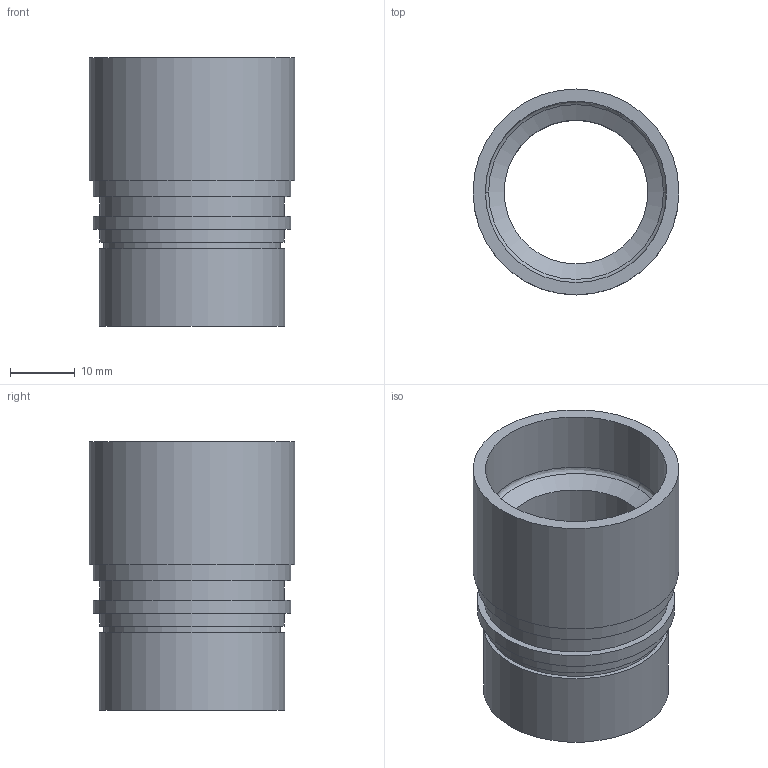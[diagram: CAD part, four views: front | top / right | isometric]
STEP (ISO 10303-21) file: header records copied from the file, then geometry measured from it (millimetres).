
FILE_DESCRIPTION (( 'STEP AP203' ), '1' );
FILE_NAME ('70-25.4R31.8-PH.STEP', '2013-09-19T10:49:38', ( '' ), ( '' ), 'SwSTEP 2.0', 'SolidWorks 2012', '' );
FILE_SCHEMA (( 'CONFIG_CONTROL_DESIGN' ));
Length unit declared in the file: millimetre
Products named in the file (1): 70-25.4R31.8-PH
Bounding box: 31.8 x 31.8 x 41.5 mm (x, y, z)
Volume: 10506.4 mm3; surface area: 8114.3 mm2
Topology: 1 solids, 1 shells, 22 faces, 37 edges, 24 vertices
Faces by surface type: cylinder 10, plane 9, bspline 2, cone 1
Full cylindrical faces by diameter (mm): 22.2 x1, 25.4 x1, 27.35 x1, 28 x1, 28.5 x2, 28.65 x1, 30.5 x2, 31.8 x1
Entity records: 567 total; most frequent: CARTESIAN_POINT 107, DIRECTION 88, ORIENTED_EDGE 50, AXIS2_PLACEMENT_3D 44, EDGE_LOOP 42, FACE_OUTER_BOUND 32, EDGE_CURVE 25, VERTEX_POINT 23
